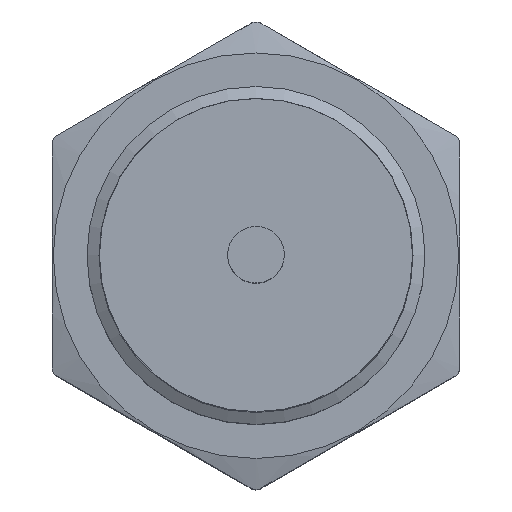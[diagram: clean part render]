
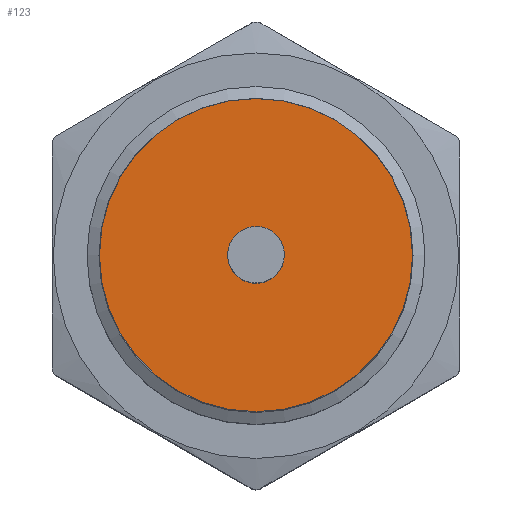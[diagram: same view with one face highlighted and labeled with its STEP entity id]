
A CAD part, top view. The second image highlights one B-rep face of the part: STEP entity #123.
In plain terms, the highlighted planar face has unit normal (0, 0, 1).
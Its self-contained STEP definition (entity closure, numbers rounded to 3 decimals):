
#96=CARTESIAN_POINT('',(0.0,0.0,85.0));
#97=DIRECTION('',(0.0,0.0,-1.0));
#98=DIRECTION('',(-1.0,0.0,0.0));
#99=AXIS2_PLACEMENT_3D('',#96,#97,#98);
#100=PLANE('',#99);
#101=CARTESIAN_POINT('',(15.75,0.,85.0));
#102=VERTEX_POINT('',#101);
#103=CARTESIAN_POINT('',(0.0,0.0,85.0));
#104=DIRECTION('',(0.0,0.0,1.0));
#105=DIRECTION('',(-1.0,0.0,0.0));
#106=AXIS2_PLACEMENT_3D('',#103,#104,#105);
#107=CIRCLE('',#106,15.75);
#108=EDGE_CURVE('',#102,#102,#107,.T.);
#109=ORIENTED_EDGE('',*,*,#108,.T.);
#110=EDGE_LOOP('',(#109));
#111=FACE_OUTER_BOUND('',#110,.T.);
#112=CARTESIAN_POINT('',(2.776,-0.644,85.0));
#113=VERTEX_POINT('',#112);
#114=CARTESIAN_POINT('',(0.,0.,85.0));
#115=DIRECTION('',(0.,0.,1.0));
#116=DIRECTION('',(-0.974,0.226,0.));
#117=AXIS2_PLACEMENT_3D('',#114,#115,#116);
#118=CIRCLE('',#117,2.85);
#119=EDGE_CURVE('',#113,#113,#118,.T.);
#120=ORIENTED_EDGE('',*,*,#119,.F.);
#121=EDGE_LOOP('',(#120));
#122=FACE_BOUND('',#121,.T.);
#123=ADVANCED_FACE('',(#111,#122),#100,.F.);
